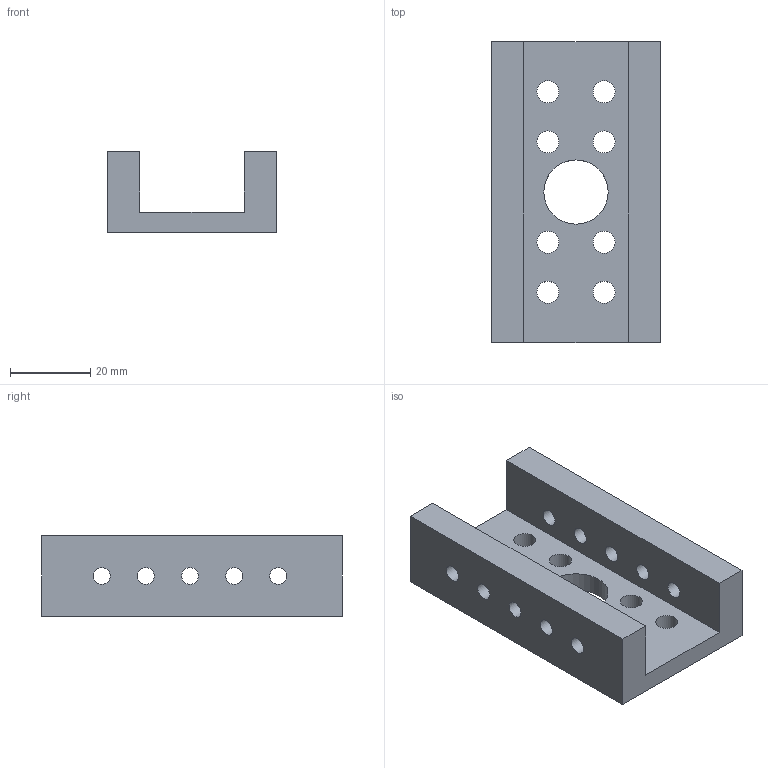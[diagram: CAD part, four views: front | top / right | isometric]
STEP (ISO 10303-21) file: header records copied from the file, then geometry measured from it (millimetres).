
FILE_DESCRIPTION(/* description */ (''),/* implementation_level */ '2;1');
FILE_NAME(/* name */ 'C:/Users/David Florian/Desktop/Cyber-Scooter-Step-Files/8-Board-Connector-Mount.step',/* time_stamp */ '2020-12-14T22:16:05-06:00',/* author */ (''),/* organization */ (''),/* preprocessor_version */ 'ST-DEVELOPER v18.1',/* originating_system */ 'Autodesk Translation Framework v9.7.1.1290',/* authorisation */ '');
FILE_SCHEMA (('AUTOMOTIVE_DESIGN { 1 0 10303 214 3 1 1 }'));
Length unit declared in the file: millimetre
Products named in the file (1): Mounting-Fixature-Base
Bounding box: 42 x 75 x 20 mm (x, y, z)
Volume: 30686 mm3; surface area: 13388.7 mm2
Topology: 1 solids, 1 shells, 29 faces, 81 edges, 54 vertices
Faces by surface type: cylinder 19, plane 10
Full cylindrical faces by diameter (mm): 4.2 x10, 5.5 x8, 16 x1
Entity records: 1062 total; most frequent: DIRECTION 179, CARTESIAN_POINT 165, ORIENTED_EDGE 162, EDGE_CURVE 81, AXIS2_PLACEMENT_3D 68, EDGE_LOOP 67, VERTEX_POINT 54, LINE 43
